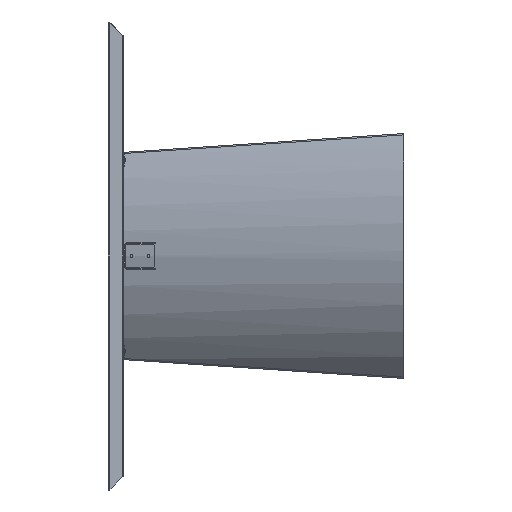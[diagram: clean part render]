
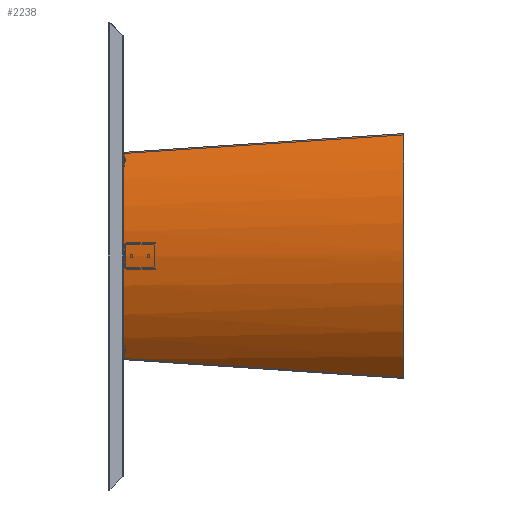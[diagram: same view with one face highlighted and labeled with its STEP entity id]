
A CAD part, left-side view. The second image highlights one B-rep face of the part: STEP entity #2238.
In plain terms, the highlighted cylindrical face has radius 455 mm (diameter 910 mm), a partial arc.
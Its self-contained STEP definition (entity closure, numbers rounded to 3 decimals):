
#49 =( BOUNDED_CURVE ( )  B_SPLINE_CURVE ( 3, ( #3024, #1926, #12016, #666 ),
 .UNSPECIFIED., .F., .F. ) 
 B_SPLINE_CURVE_WITH_KNOTS ( ( 4, 4 ),
 ( 1.582, 1.719 ),
 .UNSPECIFIED. ) 
 CURVE ( )  GEOMETRIC_REPRESENTATION_ITEM ( )  RATIONAL_B_SPLINE_CURVE ( ( 1., 0.998, 0.998, 1. ) ) 
 REPRESENTATION_ITEM ( '' )  );
#448 = CARTESIAN_POINT ( 'NONE',  ( 12.104, 1.251, -0.325 ) ) ;
#619 = CARTESIAN_POINT ( 'NONE',  ( 187.694, 720., -216.518 ) ) ;
#632 = EDGE_CURVE ( 'NONE', #866, #10456, #2586, .T. ) ;
#666 = CARTESIAN_POINT ( 'NONE',  ( -265.753, 720., -274.535 ) ) ;
#866 = VERTEX_POINT ( 'NONE', #3230 ) ;
#934 = DIRECTION ( 'NONE',  ( 0., -0.968, 0.25 ) ) ;
#1180 = CYLINDRICAL_SURFACE ( 'NONE', #1185, 455. ) ;
#1185 = AXIS2_PLACEMENT_3D ( 'NONE', #7849, #6595, #13548 ) ;
#1199 = CARTESIAN_POINT ( 'NONE',  ( -126.14, 1.243, -3.458 ) ) ;
#1302 = EDGE_CURVE ( 'NONE', #4075, #9770, #4649, .T. ) ;
#1766 = CARTESIAN_POINT ( 'NONE',  ( 0., -112.631, -440.677 ) ) ;
#1796 = CARTESIAN_POINT ( 'NONE',  ( 314.022, 0.906, -129.942 ) ) ;
#1926 = CARTESIAN_POINT ( 'NONE',  ( -298.867, 241.995, -177.363 ) ) ;
#2238 = ADVANCED_FACE ( 'NONE', ( #14421 ), #1180, .T. ) ;
#2561 = VERTEX_POINT ( 'NONE', #3970 ) ;
#2586 =( BOUNDED_CURVE ( )  B_SPLINE_CURVE ( 3, ( #5095, #2679, #3770, #2814 ),
 .UNSPECIFIED., .F., .F. ) 
 B_SPLINE_CURVE_WITH_KNOTS ( ( 4, 4 ),
 ( 0., 0.624 ),
 .UNSPECIFIED. ) 
 CURVE ( )  GEOMETRIC_REPRESENTATION_ITEM ( )  RATIONAL_B_SPLINE_CURVE ( ( 1., 0.968, 0.968, 1. ) ) 
 REPRESENTATION_ITEM ( '' )  );
#2679 = CARTESIAN_POINT ( 'NONE',  ( -96.167, 720., -186.04 ) ) ;
#2814 = CARTESIAN_POINT ( 'NONE',  ( -265.753, 720., -274.535 ) ) ;
#2844 = CARTESIAN_POINT ( 'NONE',  ( 265.753, 720., -274.535 ) ) ;
#2934 = EDGE_CURVE ( 'NONE', #9770, #6564, #6557, .T. ) ;
#3024 = CARTESIAN_POINT ( 'NONE',  ( -314.022, 0.906, -129.942 ) ) ;
#3230 = CARTESIAN_POINT ( 'NONE',  ( 0., 720., -186.04 ) ) ;
#3770 = CARTESIAN_POINT ( 'NONE',  ( -187.694, 720., -216.518 ) ) ;
#3970 = CARTESIAN_POINT ( 'NONE',  ( -12.104, 1.251, -0.325 ) ) ;
#4075 = VERTEX_POINT ( 'NONE', #4713 ) ;
#4309 = AXIS2_PLACEMENT_3D ( 'NONE', #1766, #934, #9793 ) ;
#4649 =( BOUNDED_CURVE ( )  B_SPLINE_CURVE ( 3, ( #448, #6901, #9376, #4747 ),
 .UNSPECIFIED., .F., .T. ) 
 B_SPLINE_CURVE_WITH_KNOTS ( ( 4, 4 ),
 ( 0.027, 0.762 ),
 .UNSPECIFIED. ) 
 CURVE ( )  GEOMETRIC_REPRESENTATION_ITEM ( )  RATIONAL_B_SPLINE_CURVE ( ( 1., 0.955, 0.955, 1. ) ) 
 REPRESENTATION_ITEM ( '' )  );
#4713 = CARTESIAN_POINT ( 'NONE',  ( 12.104, 1.251, -0.325 ) ) ;
#4747 = CARTESIAN_POINT ( 'NONE',  ( 314.022, 0.906, -129.942 ) ) ;
#5095 = CARTESIAN_POINT ( 'NONE',  ( 0., 720., -186.04 ) ) ;
#5447 = EDGE_CURVE ( 'NONE', #6564, #866, #7042, .T. ) ;
#5538 = EDGE_CURVE ( 'NONE', #9390, #2561, #11615, .T. ) ;
#5626 = ORIENTED_EDGE ( 'NONE', *, *, #5538, .T. ) ;
#6119 = CARTESIAN_POINT ( 'NONE',  ( 282.752, 482.074, -225.637 ) ) ;
#6413 = CARTESIAN_POINT ( 'NONE',  ( -314.022, 0.906, -129.942 ) ) ;
#6544 = EDGE_CURVE ( 'NONE', #4075, #2561, #11841, .T. ) ;
#6557 =( BOUNDED_CURVE ( )  B_SPLINE_CURVE ( 3, ( #12865, #12804, #6119, #13069 ),
 .UNSPECIFIED., .F., .T. ) 
 B_SPLINE_CURVE_WITH_KNOTS ( ( 4, 4 ),
 ( 1.582, 1.719 ),
 .UNSPECIFIED. ) 
 CURVE ( )  GEOMETRIC_REPRESENTATION_ITEM ( )  RATIONAL_B_SPLINE_CURVE ( ( 1., 0.998, 0.998, 1. ) ) 
 REPRESENTATION_ITEM ( '' )  );
#6564 = VERTEX_POINT ( 'NONE', #13238 ) ;
#6595 = DIRECTION ( 'NONE',  ( 0., -0.968, 0.25 ) ) ;
#6901 = CARTESIAN_POINT ( 'NONE',  ( 126.14, 1.243, -3.458 ) ) ;
#7042 =( BOUNDED_CURVE ( )  B_SPLINE_CURVE ( 3, ( #2844, #619, #13200, #12033 ),
 .UNSPECIFIED., .F., .F. ) 
 B_SPLINE_CURVE_WITH_KNOTS ( ( 4, 4 ),
 ( 5.659, 6.283 ),
 .UNSPECIFIED. ) 
 CURVE ( )  GEOMETRIC_REPRESENTATION_ITEM ( )  RATIONAL_B_SPLINE_CURVE ( ( 1., 0.968, 0.968, 1. ) ) 
 REPRESENTATION_ITEM ( '' )  );
#7612 = ORIENTED_EDGE ( 'NONE', *, *, #5447, .T. ) ;
#7640 = CARTESIAN_POINT ( 'NONE',  ( -314.022, 0.906, -129.942 ) ) ;
#7786 = CARTESIAN_POINT ( 'NONE',  ( -12.104, 1.251, -0.325 ) ) ;
#7849 = CARTESIAN_POINT ( 'NONE',  ( 0., 690.447, -648.367 ) ) ;
#7998 = EDGE_CURVE ( 'NONE', #9390, #10456, #49, .T. ) ;
#8517 = ORIENTED_EDGE ( 'NONE', *, *, #6544, .F. ) ;
#9376 = CARTESIAN_POINT ( 'NONE',  ( 231.469, 1.123, -48.677 ) ) ;
#9390 = VERTEX_POINT ( 'NONE', #6413 ) ;
#9770 = VERTEX_POINT ( 'NONE', #1796 ) ;
#9793 = DIRECTION ( 'NONE',  ( -1., 0., 0. ) ) ;
#10207 = CARTESIAN_POINT ( 'NONE',  ( -231.469, 1.123, -48.677 ) ) ;
#10456 = VERTEX_POINT ( 'NONE', #12080 ) ;
#10592 = ORIENTED_EDGE ( 'NONE', *, *, #1302, .T. ) ;
#10994 = EDGE_LOOP ( 'NONE', ( #7612, #13184, #12273, #5626, #8517, #10592, #14508 ) ) ;
#11615 =( BOUNDED_CURVE ( )  B_SPLINE_CURVE ( 3, ( #7640, #10207, #1199, #7786 ),
 .UNSPECIFIED., .F., .F. ) 
 B_SPLINE_CURVE_WITH_KNOTS ( ( 4, 4 ),
 ( 5.521, 6.257 ),
 .UNSPECIFIED. ) 
 CURVE ( )  GEOMETRIC_REPRESENTATION_ITEM ( )  RATIONAL_B_SPLINE_CURVE ( ( 1., 0.955, 0.955, 1. ) ) 
 REPRESENTATION_ITEM ( '' )  );
#11841 = CIRCLE ( 'NONE', #4309, 455. ) ;
#12016 = CARTESIAN_POINT ( 'NONE',  ( -282.752, 482.074, -225.637 ) ) ;
#12033 = CARTESIAN_POINT ( 'NONE',  ( 0., 720., -186.04 ) ) ;
#12080 = CARTESIAN_POINT ( 'NONE',  ( -265.753, 720., -274.535 ) ) ;
#12273 = ORIENTED_EDGE ( 'NONE', *, *, #7998, .F. ) ;
#12804 = CARTESIAN_POINT ( 'NONE',  ( 298.867, 241.995, -177.363 ) ) ;
#12865 = CARTESIAN_POINT ( 'NONE',  ( 314.022, 0.906, -129.942 ) ) ;
#13069 = CARTESIAN_POINT ( 'NONE',  ( 265.753, 720., -274.535 ) ) ;
#13184 = ORIENTED_EDGE ( 'NONE', *, *, #632, .T. ) ;
#13200 = CARTESIAN_POINT ( 'NONE',  ( 96.167, 720., -186.04 ) ) ;
#13238 = CARTESIAN_POINT ( 'NONE',  ( 265.753, 720., -274.535 ) ) ;
#13548 = DIRECTION ( 'NONE',  ( 0., -0.25, -0.968 ) ) ;
#14421 = FACE_OUTER_BOUND ( 'NONE', #10994, .T. ) ;
#14508 = ORIENTED_EDGE ( 'NONE', *, *, #2934, .T. ) ;
